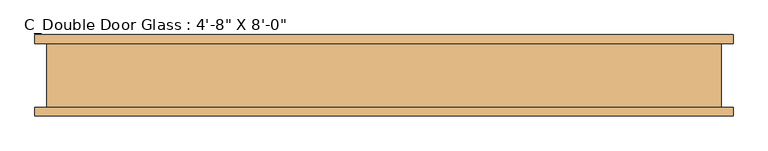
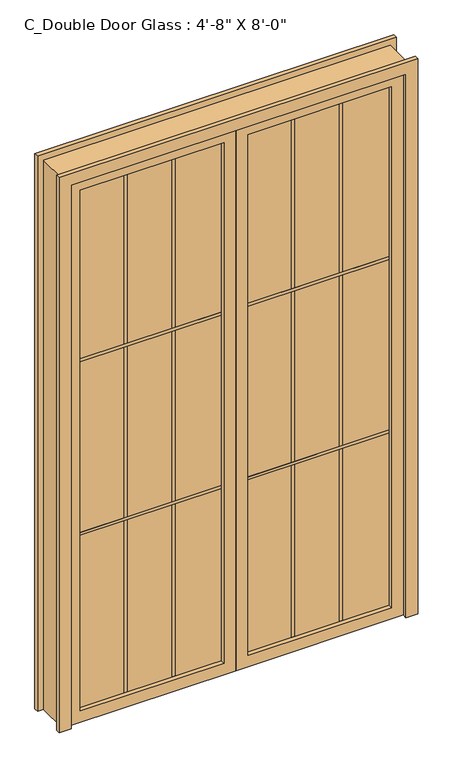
"""IFC4 building model written with IfcOpenShell, lengths in millimetres: door geometry."""

import ifcopenshell
import ifcopenshell.guid

model = None  # the IFC model being written
_history = None  # IfcOwnerHistory: only IFC2X3 demands one
_inside = {}  # id of a spatial element -> (the spatial element, [elements in it])
_under = {}  # id of a project, library or spatial element -> (it, [spatial elements below it])
_declared = {}  # id of a project -> (the project, [libraries it declares])
_typed = {}  # id of a type object -> (the type object, [elements of that type])
_made_of = {}  # id of a material, layer set ... -> (it, [elements and type objects made of it])


def new_model(schema):
    """Start an empty IFC model of exactly this schema.

    Asked for "IFC4X3", IfcOpenShell would pick the latest addendum, in which some entities
    have other attributes; the version numbers below select the first issue.
    IFC2X3 requires an IfcOwnerHistory on every rooted entity: one is made here for all.
    """
    global model, _history
    if schema == "IFC4X3":
        model = ifcopenshell.file(schema_version=(4, 3, 0, 0))
    else:
        model = ifcopenshell.file(schema=schema)
    _inside.clear()
    _under.clear()
    _declared.clear()
    _typed.clear()
    _made_of.clear()
    _history = None
    if model.schema == "IFC2X3":
        org = make("IfcOrganization", Name="unknown")
        user = make(
            "IfcPersonAndOrganization",
            ThePerson=make("IfcPerson", FamilyName="unknown"),
            TheOrganization=org,
        )
        app = make(
            "IfcApplication",
            ApplicationDeveloper=org,
            Version="unknown",
            ApplicationFullName="unknown",
            ApplicationIdentifier="unknown",
        )
        _history = make(
            "IfcOwnerHistory",
            OwningUser=user,
            OwningApplication=app,
            ChangeAction="ADDED",
            CreationDate=0,
        )
    return model


def make(cls, **values):
    """One entity of the class cls with the attributes given. An attribute that is None is left unset."""
    return model.create_entity(
        cls, **{name: value for name, value in values.items() if value is not None}
    )


def rooted(cls, **values):
    """An entity with a GlobalId (a new one), such as an element, a storey or a relation."""
    return make(cls, GlobalId=ifcopenshell.guid.new(), OwnerHistory=_history, **values)


def si_unit(unit_type, name, prefix=None):
    """IfcSIUnit, for example si_unit("LENGTHUNIT", "METRE", prefix="MILLI")."""
    return make("IfcSIUnit", UnitType=unit_type, Prefix=prefix, Name=name)


def assignment(units):
    """IfcUnitAssignment: the units of a project."""
    return None if units is None else make("IfcUnitAssignment", Units=units)


def point(xyz):
    """IfcCartesianPoint."""
    return None if xyz is None else make("IfcCartesianPoint", Coordinates=xyz)


def direction(xyz):
    """IfcDirection."""
    return None if xyz is None else make("IfcDirection", DirectionRatios=xyz)


def frame(location, z_axis=None, x_axis=None):
    """IfcAxis2Placement3D, a coordinate frame: its origin and axes. An axis left out is left unset."""
    return make(
        "IfcAxis2Placement3D",
        Location=point(location),
        Axis=direction(z_axis),
        RefDirection=direction(x_axis),
    )


def origin():
    """The frame at (0, 0, 0) with its axes left unset."""
    return frame((0.0, 0.0, 0.0))


def place(relative_to, where):
    """IfcLocalPlacement: puts the frame where relative to a parent placement (None: the world)."""
    return make(
        "IfcLocalPlacement", PlacementRelTo=relative_to, RelativePlacement=where
    )


def context(
    kind, dimensions, precision=None, world=None, true_north=None, identifier=None
):
    """IfcGeometricRepresentationContext, for example the 3D "Model" context."""
    return make(
        "IfcGeometricRepresentationContext",
        ContextIdentifier=identifier,
        ContextType=kind,
        CoordinateSpaceDimension=dimensions,
        Precision=precision,
        WorldCoordinateSystem=world,
        TrueNorth=true_north,
    )


def project(units=None, contexts=None):
    """IfcProject with its units and contexts."""
    return rooted(
        "IfcProject",
        Name="project",
        RepresentationContexts=contexts,
        UnitsInContext=assignment(units),
    )


def spatial(cls, under=None, at=None, **own):
    """A site, building, storey or space (cls), placed at a placement, below another one or the project."""
    s = rooted(cls, ObjectPlacement=at, **own)
    if under is not None:
        _under.setdefault(under.id(), (under, []))[1].append(s)
    return s


def polyline(points):
    """IfcPolyline through the points."""
    return make("IfcPolyline", Points=[point(p) for p in points])


def outline(outer, holes=None, kind="AREA"):
    """IfcArbitraryClosedProfileDef: a profile drawn as a closed curve; with holes, ...WithVoids."""
    if holes is None:
        return make("IfcArbitraryClosedProfileDef", ProfileType=kind, OuterCurve=outer)
    return make(
        "IfcArbitraryProfileDefWithVoids",
        ProfileType=kind,
        OuterCurve=outer,
        InnerCurves=holes,
    )


def extrude(swept, where, along, depth):
    """IfcExtrudedAreaSolid: the profile swept, set in the frame where, extruded along a direction by depth."""
    return make(
        "IfcExtrudedAreaSolid",
        SweptArea=swept,
        Position=where,
        ExtrudedDirection=direction(along),
        Depth=depth,
    )


def shape(context_of_items, identifier, shape_type, items):
    """IfcShapeRepresentation: the items that make up one representation, for example the "Body"."""
    return make(
        "IfcShapeRepresentation",
        ContextOfItems=context_of_items,
        RepresentationIdentifier=identifier,
        RepresentationType=shape_type,
        Items=items,
    )


def source(mapping_origin, context_of_items, identifier, shape_type, items):
    """IfcRepresentationMap: a shape defined once, which mapped items show again and again."""
    return make(
        "IfcRepresentationMap",
        MappingOrigin=mapping_origin,
        MappedRepresentation=shape(context_of_items, identifier, shape_type, items),
    )


def transform(
    local_origin,
    x_axis=None,
    y_axis=None,
    z_axis=None,
    scale=None,
    scale2=None,
    scale3=None,
    uniform=True,
):
    """IfcCartesianTransformationOperator3D, or its non-uniform kind. x_axis, y_axis, z_axis: its Axis1, 2, 3."""
    if uniform:
        return make(
            "IfcCartesianTransformationOperator3D",
            Axis1=direction(x_axis),
            Axis2=direction(y_axis),
            LocalOrigin=point(local_origin),
            Scale=scale,
            Axis3=direction(z_axis),
        )
    return make(
        "IfcCartesianTransformationOperator3DnonUniform",
        Axis1=direction(x_axis),
        Axis2=direction(y_axis),
        LocalOrigin=point(local_origin),
        Scale=scale,
        Axis3=direction(z_axis),
        Scale2=scale2,
        Scale3=scale3,
    )


def mapped(mapping_source, mapping_target):
    """IfcMappedItem: shows the shape of a source again, moved by a transform."""
    return make(
        "IfcMappedItem", MappingSource=mapping_source, MappingTarget=mapping_target
    )


def made_of(thing, what):
    """Note that an element or type object is made of a material, layer set ...; save() writes the relation."""
    if what is not None:
        _made_of.setdefault(what.id(), (what, []))[1].append(thing)
    return thing


def element(
    cls,
    number,
    at=None,
    inside=None,
    cuts=None,
    type_object=None,
    material=None,
    context=None,
    identifier="Body",
    shape_type=None,
    held_by="IfcProductDefinitionShape",
    body=None,
    shapes=None,
    **own,
):
    """One element of the class cls, such as IfcWall. Its Tag is "e" and its number.

    at: its placement. inside: the storey or other place that contains it. cuts: it is an
    opening in that element (IfcRelVoidsElement). A single representation is given by context,
    identifier, shape_type and body (its items); several are given by shapes. held_by: the class
    of the entity that holds the representations. save() writes the other relations.
    """
    e = rooted(cls, Tag="e%d" % number, ObjectPlacement=at, **own)
    if body is not None:
        shapes = [shape(context, identifier, shape_type, body)]
    if shapes is not None:
        e.Representation = make(held_by, Representations=shapes)
    if inside is not None:
        _inside.setdefault(inside.id(), (inside, []))[1].append(e)
    if cuts is not None:
        rooted(
            "IfcRelVoidsElement", RelatingBuildingElement=cuts, RelatedOpeningElement=e
        )
    if type_object is not None:
        _typed.setdefault(type_object.id(), (type_object, []))[1].append(e)
    return made_of(e, material)


def aggregate(whole, parts):
    """IfcRelAggregates: a whole, such as a stair, and the parts it consists of."""
    return rooted("IfcRelAggregates", RelatingObject=whole, RelatedObjects=parts)


def save(model, path):
    """Write the relations noted so far, then the file.

    IfcRelAggregates (storeys below a building ...), IfcRelContainedInSpatialStructure (elements
    in a storey), IfcRelDefinesByType, IfcRelAssociatesMaterial and IfcRelDeclares: one each for
    every whole, place, type object, material and project.
    """
    for whole, parts in _under.values():
        aggregate(whole, parts)
    for where, things in _inside.values():
        rooted(
            "IfcRelContainedInSpatialStructure",
            RelatedElements=things,
            RelatingStructure=where,
        )
    for kind, things in _typed.values():
        rooted("IfcRelDefinesByType", RelatedObjects=things, RelatingType=kind)
    for what, things in _made_of.values():
        rooted("IfcRelAssociatesMaterial", RelatedObjects=things, RelatingMaterial=what)
    for by, libraries in _declared.values():
        rooted("IfcRelDeclares", RelatingContext=by, RelatedDefinitions=libraries)
    model.write(path)


def door_4f8c3226(model_context):
    return source(origin(), model_context, "Body", "SweptSolid", [
        extrude(outline(polyline([(660.4, -38.1), (660.4, -50.8), (50.8, -50.8), (50.8, -38.1), (660.4, -38.1)])), frame((0.0, 0.0, 1602.3166667), z_axis=(0.0, 0.0, 1.0), x_axis=(1.0, 0.0, 0.0)), (0.0, 0.0, 1.0), 12.7),
        extrude(outline(polyline([(660.4, -38.1), (660.4, -50.8), (50.8, -50.8), (50.8, -38.1), (660.4, -38.1)])), frame((0.0, 0.0, 823.3833333), z_axis=(0.0, 0.0, 1.0), x_axis=(1.0, 0.0, 0.0)), (0.0, 0.0, 1.0), 12.7),
        extrude(outline(polyline([(463.55, -38.1), (463.55, -50.8), (450.85, -50.8), (450.85, -38.1), (463.55, -38.1)])), frame((0.0, 0.0, 50.8), z_axis=(0.0, 0.0, 1.0), x_axis=(1.0, 0.0, 0.0)), (0.0, 0.0, 1.0), 2336.8),
        extrude(outline(polyline([(260.35, -38.1), (260.35, -50.8), (247.65, -50.8), (247.65, -38.1), (260.35, -38.1)])), frame((0.0, 0.0, 50.8), z_axis=(0.0, 0.0, 1.0), x_axis=(1.0, 0.0, 0.0)), (0.0, 0.0, 1.0), 2336.8),
        extrude(outline(polyline([(660.4, -38.1), (660.4, -50.8), (50.8, -50.8), (50.8, -38.1), (660.4, -38.1)])), frame((0.0, 0.0, 50.8), z_axis=(0.0, 0.0, 1.0), x_axis=(1.0, 0.0, 0.0)), (0.0, 0.0, 1.0), 2336.8),
        extrude(outline(polyline([(2438.4, 0.0), (0.0, 0.0), (0.0, 711.2), (2438.4, 711.2), (2438.4, 0.0)]), holes=[polyline([(2387.6, 660.4), (50.8, 660.4), (50.8, 50.8), (2387.6, 50.8), (2387.6, 660.4)])]), frame((0.0, -69.85, 0.0), z_axis=(0.0, 1.0, 0.0), x_axis=(0.0, 0.0, 1.0)), (0.0, 0.0, 1.0), 50.8),
        extrude(outline(polyline([(-660.4, -38.1), (-50.8, -38.1), (-50.8, -50.8), (-660.4, -50.8), (-660.4, -38.1)])), frame((0.0, 0.0, 1602.3166667), z_axis=(0.0, 0.0, 1.0), x_axis=(1.0, 0.0, 0.0)), (0.0, 0.0, 1.0), 12.7),
        extrude(outline(polyline([(-660.4, -38.1), (-50.8, -38.1), (-50.8, -50.8), (-660.4, -50.8), (-660.4, -38.1)])), frame((0.0, 0.0, 823.3833333), z_axis=(0.0, 0.0, 1.0), x_axis=(1.0, 0.0, 0.0)), (0.0, 0.0, 1.0), 12.7),
        extrude(outline(polyline([(-463.55, -38.1), (-450.85, -38.1), (-450.85, -50.8), (-463.55, -50.8), (-463.55, -38.1)])), frame((0.0, 0.0, 50.8), z_axis=(0.0, 0.0, 1.0), x_axis=(1.0, 0.0, 0.0)), (0.0, 0.0, 1.0), 2336.8),
        extrude(outline(polyline([(-260.35, -38.1), (-247.65, -38.1), (-247.65, -50.8), (-260.35, -50.8), (-260.35, -38.1)])), frame((0.0, 0.0, 50.8), z_axis=(0.0, 0.0, 1.0), x_axis=(1.0, 0.0, 0.0)), (0.0, 0.0, 1.0), 2336.8),
        extrude(outline(polyline([(-660.4, -38.1), (-50.8, -38.1), (-50.8, -50.8), (-660.4, -50.8), (-660.4, -38.1)])), frame((0.0, 0.0, 50.8), z_axis=(0.0, 0.0, 1.0), x_axis=(1.0, 0.0, 0.0)), (0.0, 0.0, 1.0), 2336.8),
        extrude(outline(polyline([(2438.4, 0.0), (2438.4, -711.2), (0.0, -711.2), (0.0, 0.0), (2438.4, 0.0)]), holes=[polyline([(2387.6, -660.4), (2387.6, -50.8), (50.8, -50.8), (50.8, -660.4), (2387.6, -660.4)])]), frame((0.0, -69.85, 0.0), z_axis=(0.0, 1.0, 0.0), x_axis=(0.0, 0.0, 1.0)), (0.0, 0.0, 1.0), 50.8),
        extrude(outline(polyline([(2438.4, -711.2), (2438.4, 711.2), (0.0, 711.2), (0.0, 762.0), (2489.2, 762.0), (2489.2, -762.0), (0.0, -762.0), (0.0, -711.2), (2438.4, -711.2)])), frame((0.0, -88.9, 0.0), z_axis=(0.0, 1.0, 0.0), x_axis=(0.0, 0.0, 1.0)), (0.0, 0.0, 1.0), 19.05),
        extrude(outline(polyline([(2438.4, -711.2), (2438.4, 711.2), (0.0, 711.2), (0.0, 762.0), (2489.2, 762.0), (2489.2, -762.0), (0.0, -762.0), (0.0, -711.2), (2438.4, -711.2)])), frame((0.0, 69.85, 0.0), z_axis=(0.0, 1.0, 0.0), x_axis=(0.0, 0.0, 1.0)), (0.0, 0.0, 1.0), 19.05),
        extrude(outline(polyline([(0.0, -736.6), (0.0, -711.2), (2438.4, -711.2), (2438.4, 711.2), (0.0, 711.2), (0.0, 736.6), (2463.8, 736.6), (2463.8, -736.6), (0.0, -736.6)])), frame((0.0, -69.85, 0.0), z_axis=(0.0, 1.0, 0.0), x_axis=(0.0, 0.0, 1.0)), (0.0, 0.0, 1.0), 139.7),
    ])


if __name__ == "__main__":
    model = new_model("IFC4")
    model_context = context("Model", 3, world=origin())
    ifc_project = project(units=[si_unit("LENGTHUNIT", "METRE", prefix="MILLI")], contexts=[model_context])
    site = spatial("IfcSite", under=ifc_project)
    building = spatial("IfcBuilding", under=site)
    placement = place(None, origin())
    door_shape = door_4f8c3226(model_context)
    element("IfcDoor", 1, ObjectType="C_Double Door Glass : 4'-8\" X 8'-0\"", at=placement, inside=building, context=model_context, shape_type="MappedRepresentation", body=[
        mapped(door_shape, transform((0.0, 0.0, 0.0), x_axis=(1.0, 0.0, 0.0), y_axis=(0.0, 1.0, 0.0), z_axis=(0.0, 0.0, 1.0))),
    ])
    save(model, "model.ifc")
